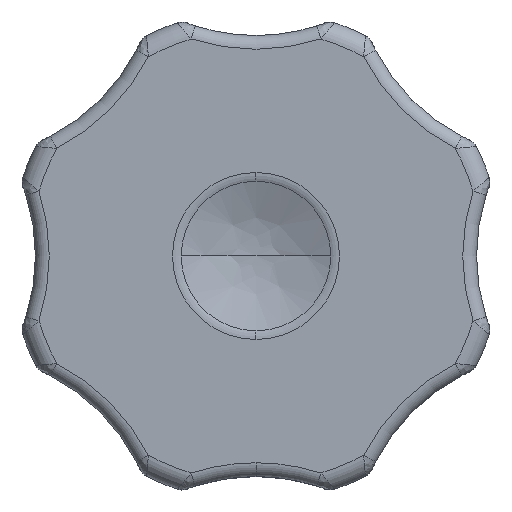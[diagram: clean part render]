
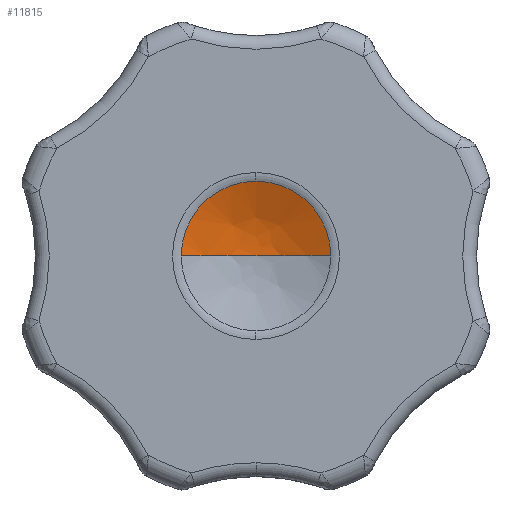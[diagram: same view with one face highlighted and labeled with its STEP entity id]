
A CAD part, front view. The second image highlights one B-rep face of the part: STEP entity #11815.
In plain terms, the highlighted free-form (B-spline) face has degree [2, 3] with [3, 4] control points.
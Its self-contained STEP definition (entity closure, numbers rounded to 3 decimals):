
#285 = CARTESIAN_POINT ( 'NONE',  ( 2.012, 0.988, 0. ) ) ;
#315 = DIRECTION ( 'NONE',  ( 0., -1., 0. ) ) ;
#473 = CARTESIAN_POINT ( 'NONE',  ( 2.012, 0.988, 0. ) ) ;
#509 = CARTESIAN_POINT ( 'NONE',  ( 0., 0.104, 0. ) ) ;
#707 = EDGE_LOOP ( 'NONE', ( #12262, #3299, #11213, #11908 ) ) ;
#1328 = CARTESIAN_POINT ( 'NONE',  ( -2.012, 0.988, 4.023 ) ) ;
#1558 = DIRECTION ( 'NONE',  ( 0., 0., -1. ) ) ;
#1698 = CIRCLE ( 'NONE', #6815, 3.797 ) ;
#2025 = VERTEX_POINT ( 'NONE', #5166 ) ;
#2161 = EDGE_CURVE ( 'NONE', #9814, #7710, #3113, .T. ) ;
#2369 = CARTESIAN_POINT ( 'NONE',  ( 3.797, 0.104, 0. ) ) ;
#2374 = CARTESIAN_POINT ( 'NONE',  ( 3.797, 0.104, 0. ) ) ;
#2580 = B_SPLINE_CURVE_WITH_KNOTS ( 'NONE', 2,
 ( #3817, #11066, #12129 ),
 .UNSPECIFIED., .F., .F.,
 ( 3, 3 ),
 ( 0., 0.638 ),
 .UNSPECIFIED. ) ;
#2641 = CARTESIAN_POINT ( 'NONE',  ( 3.797, 0.104, 0. ) ) ;
#3113 = CIRCLE ( 'NONE', #10051, 3.797 ) ;
#3299 = ORIENTED_EDGE ( 'NONE', *, *, #4662, .T. ) ;
#3361 = CARTESIAN_POINT ( 'NONE',  ( 0., 1., 0. ) ) ;
#3382 = CARTESIAN_POINT ( 'NONE',  ( 0., 0.104, 3.797 ) ) ;
#3401 = CARTESIAN_POINT ( 'NONE',  ( -3.797, 0.104, 7.594 ) ) ;
#3688 = CARTESIAN_POINT ( 'NONE',  ( 0., 1., 0. ) ) ;
#3817 = CARTESIAN_POINT ( 'NONE',  ( 0., 1., 0. ) ) ;
#4662 = EDGE_CURVE ( 'NONE', #6949, #9814, #5966, .T. ) ;
#5166 = CARTESIAN_POINT ( 'NONE',  ( -3.797, 0.104, 0. ) ) ;
#5441 = CARTESIAN_POINT ( 'NONE',  ( 0., 1., 0. ) ) ;
#5966 = B_SPLINE_CURVE_WITH_KNOTS ( 'NONE', 2,
 ( #3688, #473, #2641 ),
 .UNSPECIFIED., .F., .F.,
 ( 3, 3 ),
 ( 0., 0.638 ),
 .UNSPECIFIED. ) ;
#6008 = EDGE_CURVE ( 'NONE', #7710, #2025, #1698, .T. ) ;
#6500 = CARTESIAN_POINT ( 'NONE',  ( 0., 1., 0. ) ) ;
#6537 = CARTESIAN_POINT ( 'NONE',  ( 0., 0.104, 0. ) ) ;
#6815 = AXIS2_PLACEMENT_3D ( 'NONE', #509, #7780, #1558 ) ;
#6949 = VERTEX_POINT ( 'NONE', #12807 ) ;
#7531 = FACE_OUTER_BOUND ( 'NONE', #707, .T. ) ;
#7556 = CARTESIAN_POINT ( 'NONE',  ( 2.012, 0.988, 4.023 ) ) ;
#7591 = DIRECTION ( 'NONE',  ( 0., 0., -1. ) ) ;
#7710 = VERTEX_POINT ( 'NONE', #3382 ) ;
#7780 = DIRECTION ( 'NONE',  ( 0., -1., 0. ) ) ;
#8585 = CARTESIAN_POINT ( 'NONE',  ( -2.012, 0.988, 0. ) ) ;
#9609 = CARTESIAN_POINT ( 'NONE',  ( 3.797, 0.104, 7.594 ) ) ;
#9814 = VERTEX_POINT ( 'NONE', #2369 ) ;
#10051 = AXIS2_PLACEMENT_3D ( 'NONE', #6537, #315, #7591 ) ;
#10662 = CARTESIAN_POINT ( 'NONE',  ( -3.797, 0.104, 0. ) ) ;
#11066 = CARTESIAN_POINT ( 'NONE',  ( -2.012, 0.988, 0. ) ) ;
#11213 = ORIENTED_EDGE ( 'NONE', *, *, #2161, .T. ) ;
#11815 = ADVANCED_FACE ( 'NONE', ( #7531 ), #12213, .T. ) ;
#11908 = ORIENTED_EDGE ( 'NONE', *, *, #6008, .T. ) ;
#12044 = EDGE_CURVE ( 'NONE', #6949, #2025, #2580, .T. ) ;
#12129 = CARTESIAN_POINT ( 'NONE',  ( -3.797, 0.104, 0. ) ) ;
#12213 =( BOUNDED_SURFACE ( )  B_SPLINE_SURFACE ( 2, 3, ( 
 ( #5441, #3361, #12713, #6500 ),
 ( #285, #7556, #1328, #8585 ),
 ( #2374, #9609, #3401, #10662 ) ),
 .UNSPECIFIED., .F., .F., .T. ) 
 B_SPLINE_SURFACE_WITH_KNOTS ( ( 3, 3 ),
 ( 4, 4 ),
 ( 0., 0.638 ),
 ( 0., 1. ),
 .UNSPECIFIED. ) 
 GEOMETRIC_REPRESENTATION_ITEM ( )  RATIONAL_B_SPLINE_SURFACE ( (
 ( 1., 0.333, 0.333, 1.),
 ( 1., 0.333, 0.333, 1.),
 ( 1., 0.333, 0.333, 1.) ) ) 
 REPRESENTATION_ITEM ( '' )  SURFACE ( )  );
#12262 = ORIENTED_EDGE ( 'NONE', *, *, #12044, .F. ) ;
#12713 = CARTESIAN_POINT ( 'NONE',  ( 0., 1., 0. ) ) ;
#12807 = CARTESIAN_POINT ( 'NONE',  ( 0., 1., 0. ) ) ;
